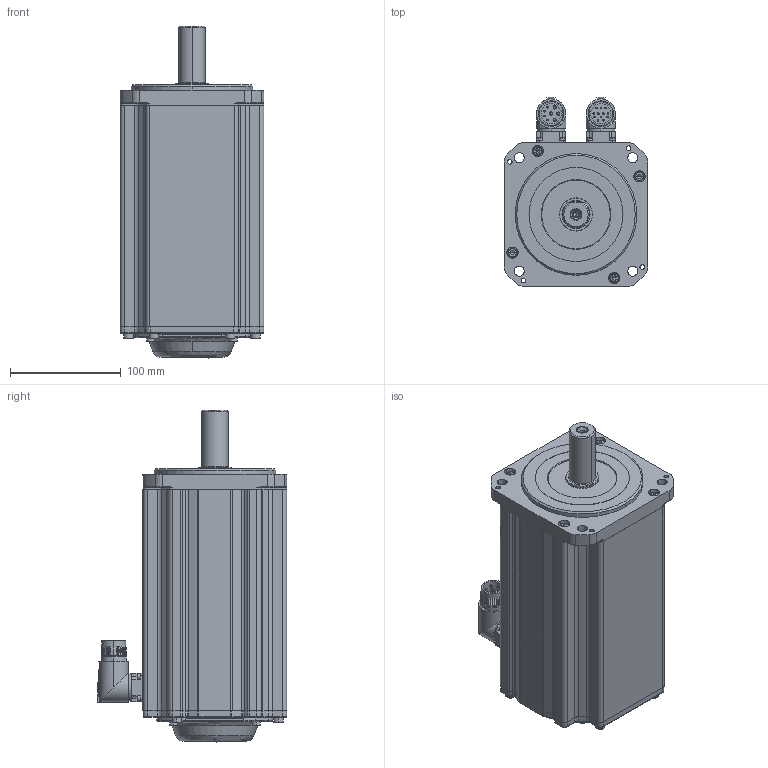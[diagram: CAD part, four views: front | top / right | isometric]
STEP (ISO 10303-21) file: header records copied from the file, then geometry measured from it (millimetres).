
FILE_DESCRIPTION (( 'STEP AP203' ), '1' );
FILE_NAME ('MC20-130-3L30-N502-0¡õPL-NNNN.STEP', '2025-07-29T14:51:49', ( '' ), ( '' ), 'SwSTEP 2.0', 'SolidWorks 2014', '' );
FILE_SCHEMA (( 'CONFIG_CONTROL_DESIGN' ));
Length unit declared in the file: millimetre
Products named in the file (1): MC20-130-3L30-N502-0¡õPL-NNNN
Bounding box: 130 x 171.35 x 300.2 mm (x, y, z)
Volume: 3542300 mm3; surface area: 310747.9 mm2
Topology: 28 solids, 28 shells, 2022 faces, 4794 edges, 2857 vertices
Faces by surface type: plane 733, cylinder 567, cone 358, bspline 204, torus 148, sphere 12
Entity records: 62084 total; most frequent: CARTESIAN_POINT 16785, DIRECTION 9523, ORIENTED_EDGE 9364, EDGE_CURVE 4682, AXIS2_PLACEMENT_3D 3694, VERTEX_POINT 2857, EDGE_LOOP 2269, VECTOR 2135
